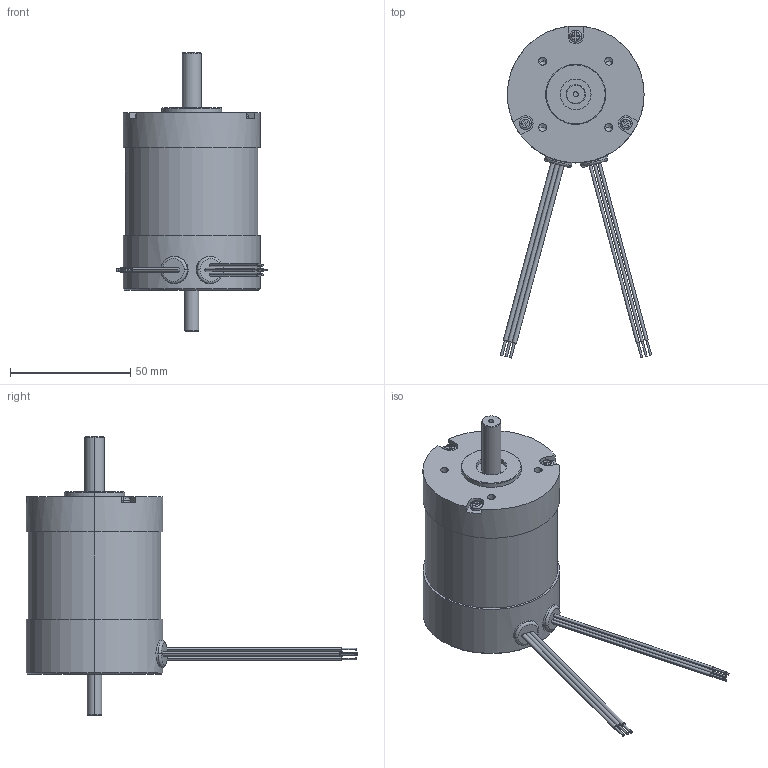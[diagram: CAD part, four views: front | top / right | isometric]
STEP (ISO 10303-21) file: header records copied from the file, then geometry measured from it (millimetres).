
FILE_DESCRIPTION (( 'STEP AP214' ), '1' );
FILE_NAME ('BLWR233D.STEP', '2013-07-24T21:44:22', ( '' ), ( '' ), 'SwSTEP 2.0', 'SolidWorks 2013', '' );
FILE_SCHEMA (( 'AUTOMOTIVE_DESIGN' ));
Length unit declared in the file: inch
Products named in the file (1): BLWR233D
Bounding box: 62.81 x 137.75 x 115.57 mm (x, y, z)
Volume: 183515.1 mm3; surface area: 23727.2 mm2
Topology: 1 solids, 1 shells, 289 faces, 707 edges, 444 vertices
Faces by surface type: plane 129, cylinder 110, cone 36, torus 14
Entity records: 12486 total; most frequent: CARTESIAN_POINT 1851, DIRECTION 1487, ORIENTED_EDGE 1378, EDGE_CURVE 689, AXIS2_PLACEMENT_3D 580, VERTEX_POINT 444, EDGE_LOOP 331, VECTOR 327
